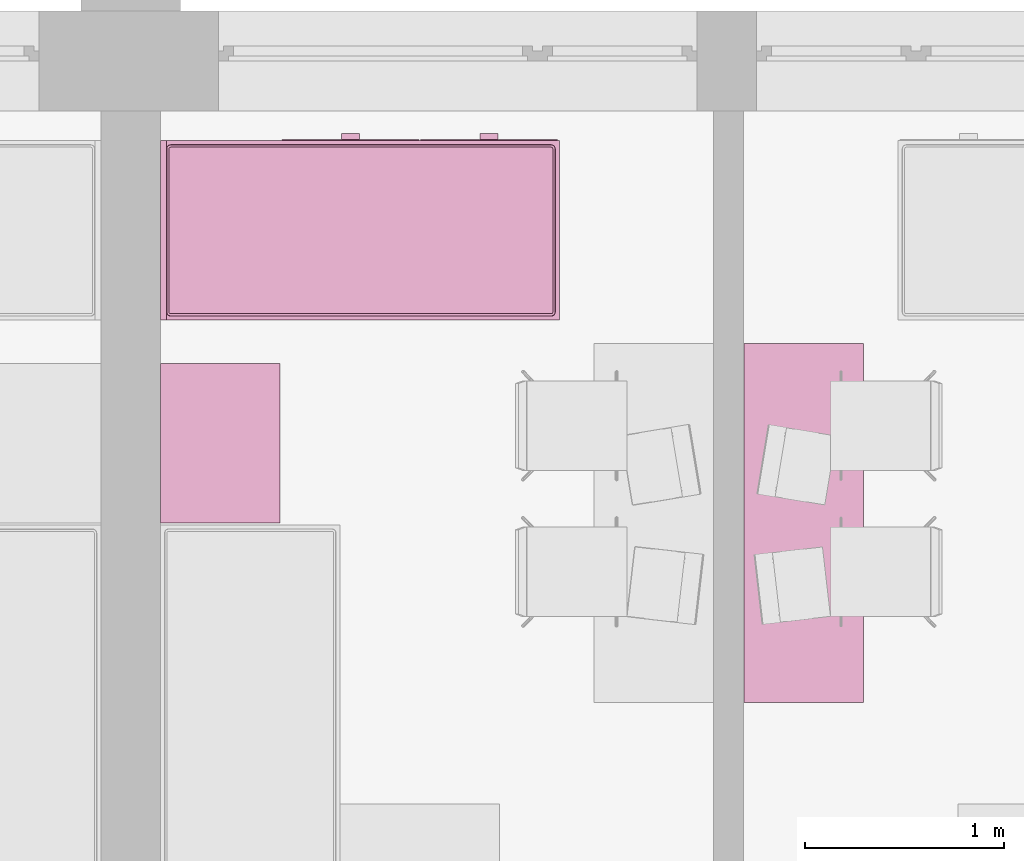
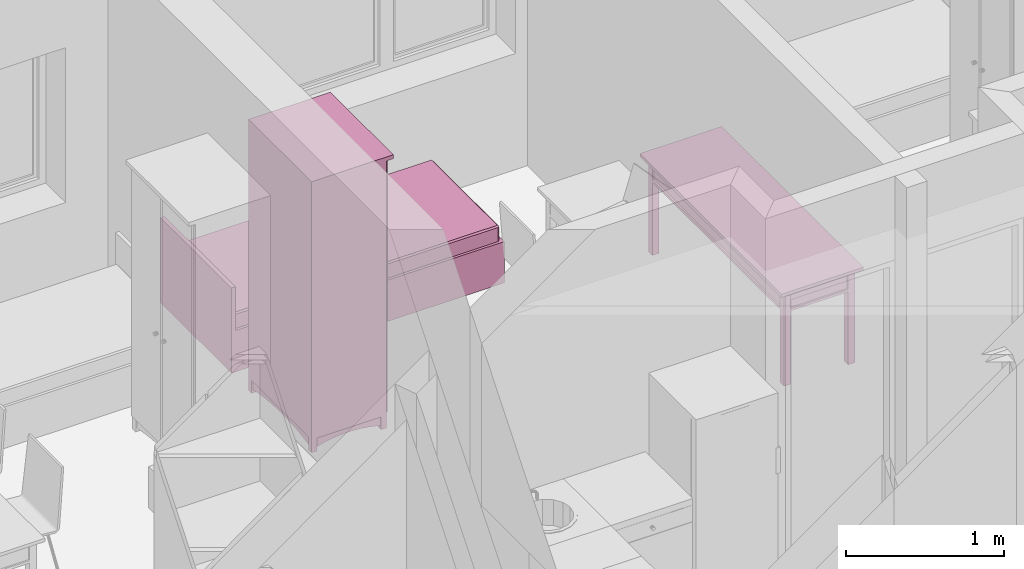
# One storey, part 144 of 172: 3 furnishings.
"""IFC2X3 building model written with IfcOpenShell, lengths in millimetres."""

from ifc_helpers import new_model, entity, si_unit, converted_unit, money_unit, direction, frame, origin_with_axes, place, context, subcontext, project, spatial, faceted_brep, source, transform, mapped, material, material_list, type_object, element, save


model = new_model("IFC2X3")

# Units and contexts
model_context = context("Model", 3, precision=1e-05, world=origin_with_axes(), true_north=direction((0.0, 1.0)))
body_context = subcontext(model_context, "Body", "Model", "MODEL_VIEW")
ifc_project = project(units=[si_unit("LENGTHUNIT", "METRE", prefix="MILLI"), si_unit("AREAUNIT", "SQUARE_METRE"), si_unit("VOLUMEUNIT", "CUBIC_METRE"), converted_unit("PLANEANGLEUNIT", "DEGREE", entity("IfcPlaneAngleMeasure", 0.0174532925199), si_unit("PLANEANGLEUNIT", "RADIAN"), dimensions=[0, 0, 0, 0, 0, 0, 0]), si_unit("SOLIDANGLEUNIT", "STERADIAN"), money_unit("USD"), converted_unit("TIMEUNIT", "Year", entity("IfcTimeMeasure", 31556926.0), si_unit("TIMEUNIT", "SECOND"), dimensions=[0, 0, 0, 0, 0, 0, 0]), si_unit("MASSUNIT", "GRAM"), si_unit("THERMODYNAMICTEMPERATUREUNIT", "DEGREE_CELSIUS"), si_unit("LUMINOUSINTENSITYUNIT", "LUMEN")], contexts=[model_context])

# Site, building, storey
site_placement = place(None, origin_with_axes())
site = spatial("IfcSite", under=ifc_project, at=site_placement, Name="Site", CompositionType="ELEMENT")
building_placement = place(site_placement, origin_with_axes())
building = spatial("IfcBuilding", under=site, at=building_placement, Name="Building", CompositionType="ELEMENT")
storey_placement = place(building_placement, frame((0.0, 0.0, 3200.0), z_axis=(0.0, 0.0, 1.0), x_axis=(1.0, 0.0, 0.0)))
storey = spatial("IfcBuildingStorey", under=building, at=storey_placement, Name="3KORRUS", CompositionType="ELEMENT", Elevation=3200.0)

# Furnishings
ifc_material = material(Name="Background")
ifc_material_list = material_list([ifc_material])
furnishing_element_type_1 = type_object("IfcFurnishingElementType", Name="Bed 19")
shared_shape_1 = source(origin_with_axes(), body_context, "Body", "Brep", [
    faceted_brep([(900.0, 1970.0, 0.0), (0.0, 1970.0, 0.0), (0.0, 2000.0, 0.0), (900.0, 2000.0, 0.0), (900.0, 1970.0, 660.0), (0.0, 1970.0, 660.0), (0.0, 2000.0, 660.0), (900.0, 2000.0, 660.0)], [[[0, 1, 2, 3]], [[1, 0, 4, 5]], [[2, 1, 5, 6]], [[3, 2, 6, 7]], [[0, 3, 7, 4]], [[5, 4, 7, 6]]]),
    faceted_brep([(900.0, 0.0, 0.0), (0.0, 0.0, 0.0), (0.0, 1970.0, 0.0), (900.0, 1970.0, 0.0), (900.0, 0.0, 320.0), (0.0, 0.0, 320.0), (0.0, 1970.0, 320.0), (900.0, 1970.0, 320.0)], [[[0, 1, 2, 3]], [[1, 0, 4, 5]], [[2, 1, 5, 6]], [[3, 2, 6, 7]], [[0, 3, 7, 4]], [[5, 4, 7, 6]]]),
    faceted_brep([(905.0, 10.0, 30.0), (900.0, 10.0, 30.0), (900.0, 695.0, 30.0), (905.0, 695.0, 30.0), (905.0, 10.0, 290.0), (900.0, 10.0, 290.0), (900.0, 695.0, 290.0), (905.0, 695.0, 290.0)], [[[0, 1, 2, 3]], [[1, 0, 4, 5]], [[2, 1, 5, 6]], [[3, 2, 6, 7]], [[0, 3, 7, 4]], [[5, 4, 7, 6]]]),
    faceted_brep([(935.0, 307.5, 150.0), (905.0, 307.5, 150.0), (905.0, 397.5, 150.0), (935.0, 397.5, 150.0), (935.0, 307.5, 170.0), (905.0, 307.5, 170.0), (905.0, 397.5, 170.0), (935.0, 397.5, 170.0)], [[[0, 1, 2, 3]], [[1, 0, 4, 5]], [[2, 1, 5, 6]], [[3, 2, 6, 7]], [[0, 3, 7, 4]], [[5, 4, 7, 6]]]),
    faceted_brep([(905.0, 705.0, 30.0), (900.0, 705.0, 30.0), (900.0, 1390.0, 30.0), (905.0, 1390.0, 30.0), (905.0, 705.0, 290.0), (900.0, 705.0, 290.0), (900.0, 1390.0, 290.0), (905.0, 1390.0, 290.0)], [[[0, 1, 2, 3]], [[1, 0, 4, 5]], [[2, 1, 5, 6]], [[3, 2, 6, 7]], [[0, 3, 7, 4]], [[5, 4, 7, 6]]]),
    faceted_brep([(935.0, 1002.5, 150.0), (905.0, 1002.5, 150.0), (905.0, 1092.5, 150.0), (935.0, 1092.5, 150.0), (935.0, 1002.5, 170.0), (905.0, 1002.5, 170.0), (905.0, 1092.5, 170.0), (935.0, 1092.5, 170.0)], [[[0, 1, 2, 3]], [[1, 0, 4, 5]], [[2, 1, 5, 6]], [[3, 2, 6, 7]], [[0, 3, 7, 4]], [[5, 4, 7, 6]]]),
    faceted_brep([(20.0, 40.0, 350.0), (20.0, 1950.0, 350.0), (21.522, 1957.654, 350.0), (25.858, 1964.142, 350.0), (32.346, 1968.478, 350.0), (40.0, 1970.0, 350.0), (860.0, 1970.0, 350.0), (867.654, 1968.478, 350.0), (874.142, 1964.142, 350.0), (878.478, 1957.654, 350.0), (880.0, 1950.0, 350.0), (880.0, 40.0, 350.0), (878.478, 32.346, 350.0), (874.142, 25.858, 350.0), (867.654, 21.522, 350.0), (860.0, 20.0, 350.0), (40.0, 20.0, 350.0), (32.346, 21.522, 350.0), (25.858, 25.858, 350.0), (21.522, 32.346, 350.0), (20.0, 40.0, 420.0), (20.0, 1950.0, 420.0), (21.522, 1957.654, 420.0), (25.858, 1964.142, 420.0), (32.346, 1968.478, 420.0), (40.0, 1970.0, 420.0), (860.0, 1970.0, 420.0), (867.654, 1968.478, 420.0), (874.142, 1964.142, 420.0), (878.478, 1957.654, 420.0), (880.0, 1950.0, 420.0), (880.0, 40.0, 420.0), (878.478, 32.346, 420.0), (874.142, 25.858, 420.0), (867.654, 21.522, 420.0), (860.0, 20.0, 420.0), (40.0, 20.0, 420.0), (32.346, 21.522, 420.0), (25.858, 25.858, 420.0), (21.522, 32.346, 420.0), (21.522, 40.15, 427.654), (21.522, 1949.85, 427.654), (22.956, 1957.06, 427.654), (26.955, 1963.045, 427.654), (32.94, 1967.044, 427.654), (40.15, 1968.478, 427.654), (859.85, 1968.478, 427.654), (867.06, 1967.044, 427.654), (873.045, 1963.045, 427.654), (877.044, 1957.06, 427.654), (878.478, 1949.85, 427.654), (878.478, 40.15, 427.654), (877.044, 32.94, 427.654), (873.045, 26.955, 427.654), (867.06, 22.956, 427.654), (859.85, 21.522, 427.654), (40.15, 21.522, 427.654), (32.94, 22.956, 427.654), (26.955, 26.955, 427.654), (22.956, 32.94, 427.654), (32.346, 41.216, 438.478), (32.346, 1948.784, 438.478), (33.152, 1952.836, 438.478), (34.759, 1955.241, 438.478), (37.164, 1956.848, 438.478), (41.216, 1957.654, 438.478), (858.784, 1957.654, 438.478), (862.836, 1956.848, 438.478), (865.241, 1955.241, 438.478), (866.848, 1952.836, 438.478), (867.654, 1948.784, 438.478), (867.654, 41.216, 438.478), (866.848, 37.164, 438.478), (865.241, 34.759, 438.478), (862.836, 33.152, 438.478), (858.784, 32.346, 438.478), (41.216, 32.346, 438.478), (37.164, 33.152, 438.478), (34.759, 34.759, 438.478), (33.152, 37.164, 438.478), (40.0, 41.97, 440.0), (40.0, 1948.03, 440.0), (40.327, 1949.673, 440.0), (40.0, 1950.0, 439.924), (41.97, 1950.0, 440.0), (858.03, 1950.0, 440.0), (859.673, 1949.673, 440.0), (860.0, 1950.0, 439.924), (860.0, 1948.03, 440.0), (860.0, 41.97, 440.0), (859.673, 40.327, 440.0), (860.0, 40.0, 439.924), (858.03, 40.0, 440.0), (41.97, 40.0, 440.0), (40.327, 40.327, 440.0), (40.0, 40.0, 439.924)], [[[0, 1, 2, 3, 4, 5, 6, 7, 8, 9, 10, 11, 12, 13, 14, 15, 16, 17, 18, 19]], [[1, 0, 20, 21]], [[2, 1, 21, 22]], [[3, 2, 22, 23]], [[4, 3, 23, 24]], [[5, 4, 24, 25]], [[6, 5, 25, 26]], [[7, 6, 26, 27]], [[8, 7, 27, 28]], [[9, 8, 28, 29]], [[10, 9, 29, 30]], [[11, 10, 30, 31]], [[12, 11, 31, 32]], [[13, 12, 32, 33]], [[14, 13, 33, 34]], [[15, 14, 34, 35]], [[16, 15, 35, 36]], [[17, 16, 36, 37]], [[18, 17, 37, 38]], [[19, 18, 38, 39]], [[0, 19, 39, 20]], [[21, 20, 40, 41]], [[22, 21, 41, 42]], [[23, 22, 42, 43]], [[24, 23, 43, 44]], [[25, 24, 44, 45]], [[26, 25, 45, 46]], [[27, 26, 46, 47]], [[28, 27, 47, 48]], [[29, 28, 48, 49]], [[30, 29, 49, 50]], [[31, 30, 50, 51]], [[32, 31, 51, 52]], [[33, 32, 52, 53]], [[34, 33, 53, 54]], [[35, 34, 54, 55]], [[36, 35, 55, 56]], [[37, 36, 56, 57]], [[38, 37, 57, 58]], [[39, 38, 58, 59]], [[20, 39, 59, 40]], [[41, 40, 60, 61]], [[42, 41, 61, 62]], [[43, 42, 62, 63]], [[44, 43, 63, 64]], [[45, 44, 64, 65]], [[46, 45, 65, 66]], [[47, 46, 66, 67]], [[48, 47, 67, 68]], [[49, 48, 68, 69]], [[50, 49, 69, 70]], [[51, 50, 70, 71]], [[52, 51, 71, 72]], [[53, 52, 72, 73]], [[54, 53, 73, 74]], [[55, 54, 74, 75]], [[56, 55, 75, 76]], [[57, 56, 76, 77]], [[58, 57, 77, 78]], [[59, 58, 78, 79]], [[40, 59, 79, 60]], [[61, 60, 80, 81]], [[62, 61, 81, 82, 83]], [[63, 62, 83]], [[64, 63, 83]], [[65, 64, 83, 82, 84]], [[66, 65, 84, 85]], [[67, 66, 85, 86, 87]], [[68, 67, 87]], [[69, 68, 87]], [[70, 69, 87, 86, 88]], [[71, 70, 88, 89]], [[72, 71, 89, 90, 91]], [[73, 72, 91]], [[74, 73, 91]], [[75, 74, 91, 90, 92]], [[76, 75, 92, 93]], [[77, 76, 93, 94, 95]], [[78, 77, 95]], [[79, 78, 95]], [[60, 79, 95, 94, 80]], [[81, 80, 94, 93, 92, 90, 89, 88, 86, 85, 84, 82]]]),
    faceted_brep([(20.0, 40.0, 350.0), (21.522, 32.346, 350.0), (25.858, 25.858, 350.0), (32.346, 21.522, 350.0), (40.0, 20.0, 350.0), (860.0, 20.0, 350.0), (867.654, 21.522, 350.0), (874.142, 25.858, 350.0), (878.478, 32.346, 350.0), (880.0, 40.0, 350.0), (880.0, 1950.0, 350.0), (878.478, 1957.654, 350.0), (874.142, 1964.142, 350.0), (867.654, 1968.478, 350.0), (860.0, 1970.0, 350.0), (40.0, 1970.0, 350.0), (32.346, 1968.478, 350.0), (25.858, 1964.142, 350.0), (21.522, 1957.654, 350.0), (20.0, 1950.0, 350.0), (20.0, 40.0, 320.0), (21.522, 32.346, 320.0), (25.858, 25.858, 320.0), (32.346, 21.522, 320.0), (40.0, 20.0, 320.0), (860.0, 20.0, 320.0), (867.654, 21.522, 320.0), (874.142, 25.858, 320.0), (878.478, 32.346, 320.0), (880.0, 40.0, 320.0), (880.0, 1950.0, 320.0), (878.478, 1957.654, 320.0), (874.142, 1964.142, 320.0), (867.654, 1968.478, 320.0), (860.0, 1970.0, 320.0), (40.0, 1970.0, 320.0), (32.346, 1968.478, 320.0), (25.858, 1964.142, 320.0), (21.522, 1957.654, 320.0), (20.0, 1950.0, 320.0)], [[[0, 1, 2, 3, 4, 5, 6, 7, 8, 9, 10, 11, 12, 13, 14, 15, 16, 17, 18, 19]], [[0, 20, 21, 1]], [[1, 21, 22, 2]], [[2, 22, 23, 3]], [[3, 23, 24, 4]], [[4, 24, 25, 5]], [[5, 25, 26, 6]], [[6, 26, 27, 7]], [[7, 27, 28, 8]], [[8, 28, 29, 9]], [[9, 29, 30, 10]], [[10, 30, 31, 11]], [[11, 31, 32, 12]], [[12, 32, 33, 13]], [[13, 33, 34, 14]], [[14, 34, 35, 15]], [[15, 35, 36, 16]], [[16, 36, 37, 17]], [[17, 37, 38, 18]], [[18, 38, 39, 19]], [[19, 39, 20, 0]], [[20, 39, 38, 37, 36, 35, 34, 33, 32, 31, 30, 29, 28, 27, 26, 25, 24, 23, 22, 21]]]),
])
furnishing_1_placement = place(storey_placement, frame((8009.70329669, -6189.6041088, 0.0), z_axis=(0.0, 0.0, 1.0), x_axis=(0.0, 1.0, 0.0)))
element("IfcFurnishingElement", 1, at=furnishing_1_placement, inside=storey, type_object=furnishing_element_type_1, material=ifc_material_list, Name="FU - 013", context=body_context, shape_type="MappedRepresentation", body=[
    mapped(shared_shape_1, transform((0.0, 0.0, 0.0))),
])
furnishing_element_type_2 = type_object("IfcFurnishingElementType", Name="Cupboard 19")
shared_shape_2 = source(origin_with_axes(), body_context, "Body", "Brep", [
    faceted_brep([(780.0, 600.0, 120.0), (780.0, 600.0, 2050.0), (780.0, 580.0, 2050.0), (780.0, 580.0, 120.0), (20.0, 600.0, 120.0), (20.0, 600.0, 2050.0), (20.0, 580.0, 2050.0), (20.0, 580.0, 120.0)], [[[0, 1, 2, 3]], [[4, 5, 1, 0]], [[1, 5, 6, 2]], [[3, 2, 6, 7]], [[0, 3, 7, 4]], [[7, 6, 5, 4]]]),
    faceted_brep([(0.0, 50.0, 100.0), (0.0, 600.0, 100.0), (20.0, 600.0, 100.0), (20.0, 50.0, 100.0), (0.0, 50.0, 2070.0), (0.0, 600.0, 2070.0), (20.0, 600.0, 2070.0), (20.0, 50.0, 2070.0)], [[[0, 1, 2, 3]], [[0, 4, 5, 1]], [[1, 5, 6, 2]], [[2, 6, 7, 3]], [[3, 7, 4, 0]], [[7, 6, 5, 4]]]),
    faceted_brep([(780.0, 50.0, 100.0), (780.0, 600.0, 100.0), (800.0, 600.0, 100.0), (800.0, 50.0, 100.0), (780.0, 50.0, 2070.0), (780.0, 600.0, 2070.0), (800.0, 600.0, 2070.0), (800.0, 50.0, 2070.0)], [[[0, 1, 2, 3]], [[0, 4, 5, 1]], [[1, 5, 6, 2]], [[2, 6, 7, 3]], [[3, 7, 4, 0]], [[7, 6, 5, 4]]]),
    faceted_brep([(20.0, 50.0, 100.0), (20.0, 600.0, 100.0), (780.0, 600.0, 100.0), (780.0, 50.0, 100.0), (20.0, 50.0, 120.0), (20.0, 600.0, 120.0), (780.0, 600.0, 120.0), (780.0, 50.0, 120.0)], [[[0, 1, 2, 3]], [[0, 4, 5, 1]], [[1, 5, 6, 2]], [[2, 6, 7, 3]], [[3, 7, 4, 0]], [[7, 6, 5, 4]]]),
    faceted_brep([(20.0, 50.0, 2050.0), (20.0, 600.0, 2050.0), (780.0, 600.0, 2050.0), (780.0, 50.0, 2050.0), (20.0, 50.0, 2070.0), (20.0, 600.0, 2070.0), (780.0, 600.0, 2070.0), (780.0, 50.0, 2070.0)], [[[0, 1, 2, 3]], [[0, 4, 5, 1]], [[1, 5, 6, 2]], [[2, 6, 7, 3]], [[3, 7, 4, 0]], [[7, 6, 5, 4]]]),
    faceted_brep([(0.0, 600.0, 2070.0), (0.0, 0.0, 2070.0), (0.0, 0.0, 2100.0), (0.0, 600.0, 2100.0), (800.0, 600.0, 2070.0), (800.0, 0.0, 2070.0), (800.0, 0.0, 2100.0), (800.0, 600.0, 2100.0)], [[[0, 1, 2, 3]], [[0, 4, 5, 1]], [[1, 5, 6, 2]], [[3, 2, 6, 7]], [[4, 0, 3, 7]], [[5, 4, 7, 6]]]),
    faceted_brep([(760.0, 590.0, 25.0), (760.0, 570.0, 25.0), (640.962, 570.0, 45.8), (640.962, 590.0, 45.8), (760.0, 590.0, 100.0), (760.0, 570.0, 100.0), (40.0, 570.0, 100.0), (40.0, 570.0, 25.0), (159.038, 570.0, 45.8), (279.23, 570.0, 58.32), (400.0, 570.0, 62.5), (520.77, 570.0, 58.32), (520.77, 590.0, 58.32), (400.0, 590.0, 62.5), (279.23, 590.0, 58.32), (159.038, 590.0, 45.8), (40.0, 590.0, 25.0), (40.0, 590.0, 100.0)], [[[0, 1, 2, 3]], [[4, 5, 1, 0]], [[1, 5, 6, 7, 8, 9, 10, 11, 2]], [[3, 2, 11, 12]], [[0, 3, 12, 13, 14, 15, 16, 17, 4]], [[17, 6, 5, 4]], [[16, 7, 6, 17]], [[15, 8, 7, 16]], [[14, 9, 8, 15]], [[13, 10, 9, 14]], [[12, 11, 10, 13]]]),
    faceted_brep([(760.0, 80.0, 25.0), (760.0, 60.0, 25.0), (640.962, 60.0, 45.8), (640.962, 80.0, 45.8), (760.0, 80.0, 100.0), (760.0, 60.0, 100.0), (40.0, 60.0, 100.0), (40.0, 60.0, 25.0), (159.038, 60.0, 45.8), (279.23, 60.0, 58.32), (400.0, 60.0, 62.5), (520.77, 60.0, 58.32), (520.77, 80.0, 58.32), (400.0, 80.0, 62.5), (279.23, 80.0, 58.32), (159.038, 80.0, 45.8), (40.0, 80.0, 25.0), (40.0, 80.0, 100.0)], [[[0, 1, 2, 3]], [[4, 5, 1, 0]], [[1, 5, 6, 7, 8, 9, 10, 11, 2]], [[3, 2, 11, 12]], [[0, 3, 12, 13, 14, 15, 16, 17, 4]], [[17, 6, 5, 4]], [[16, 7, 6, 17]], [[15, 8, 7, 16]], [[14, 9, 8, 15]], [[13, 10, 9, 14]], [[12, 11, 10, 13]]]),
    faceted_brep([(790.0, 90.0, 25.0), (770.0, 90.0, 25.0), (770.0, 141.266, 38.072), (790.0, 141.266, 38.072), (790.0, 90.0, 100.0), (770.0, 90.0, 100.0), (770.0, 560.0, 100.0), (770.0, 560.0, 25.0), (770.0, 508.734, 38.072), (770.0, 456.752, 47.92), (770.0, 404.257, 54.508), (770.0, 351.453, 57.808), (770.0, 298.547, 57.808), (770.0, 245.743, 54.508), (770.0, 193.248, 47.92), (790.0, 193.248, 47.92), (790.0, 245.743, 54.508), (790.0, 298.547, 57.808), (790.0, 351.453, 57.808), (790.0, 404.257, 54.508), (790.0, 456.752, 47.92), (790.0, 508.734, 38.072), (790.0, 560.0, 25.0), (790.0, 560.0, 100.0)], [[[0, 1, 2, 3]], [[4, 5, 1, 0]], [[1, 5, 6, 7, 8, 9, 10, 11, 12, 13, 14, 2]], [[3, 2, 14, 15]], [[0, 3, 15, 16, 17, 18, 19, 20, 21, 22, 23, 4]], [[23, 6, 5, 4]], [[22, 7, 6, 23]], [[21, 8, 7, 22]], [[20, 9, 8, 21]], [[19, 10, 9, 20]], [[18, 11, 10, 19]], [[17, 12, 11, 18]], [[16, 13, 12, 17]], [[15, 14, 13, 16]]]),
    faceted_brep([(30.0, 90.0, 25.0), (10.0, 90.0, 25.0), (10.0, 141.266, 38.072), (30.0, 141.266, 38.072), (30.0, 90.0, 100.0), (10.0, 90.0, 100.0), (10.0, 560.0, 100.0), (10.0, 560.0, 25.0), (10.0, 508.734, 38.072), (10.0, 456.752, 47.92), (10.0, 404.257, 54.508), (10.0, 351.453, 57.808), (10.0, 298.547, 57.808), (10.0, 245.743, 54.508), (10.0, 193.248, 47.92), (30.0, 193.248, 47.92), (30.0, 245.743, 54.508), (30.0, 298.547, 57.808), (30.0, 351.453, 57.808), (30.0, 404.257, 54.508), (30.0, 456.752, 47.92), (30.0, 508.734, 38.072), (30.0, 560.0, 25.0), (30.0, 560.0, 100.0)], [[[0, 1, 2, 3]], [[4, 5, 1, 0]], [[1, 5, 6, 7, 8, 9, 10, 11, 12, 13, 14, 2]], [[3, 2, 14, 15]], [[0, 3, 15, 16, 17, 18, 19, 20, 21, 22, 23, 4]], [[23, 6, 5, 4]], [[22, 7, 6, 23]], [[21, 8, 7, 22]], [[20, 9, 8, 21]], [[19, 10, 9, 20]], [[18, 11, 10, 19]], [[17, 12, 11, 18]], [[16, 13, 12, 17]], [[15, 14, 13, 16]]]),
    faceted_brep([(760.0, 560.0, 0.0), (760.0, 560.0, 100.0), (760.0, 600.0, 100.0), (760.0, 600.0, 0.0), (800.0, 560.0, 0.0), (800.0, 560.0, 100.0), (800.0, 600.0, 100.0), (800.0, 600.0, 0.0)], [[[0, 1, 2, 3]], [[4, 5, 1, 0]], [[1, 5, 6, 2]], [[3, 2, 6, 7]], [[0, 3, 7, 4]], [[7, 6, 5, 4]]]),
    faceted_brep([(0.0, 560.0, 0.0), (0.0, 560.0, 100.0), (0.0, 600.0, 100.0), (0.0, 600.0, 0.0), (40.0, 560.0, 0.0), (40.0, 560.0, 100.0), (40.0, 600.0, 100.0), (40.0, 600.0, 0.0)], [[[0, 1, 2, 3]], [[4, 5, 1, 0]], [[1, 5, 6, 2]], [[3, 2, 6, 7]], [[0, 3, 7, 4]], [[7, 6, 5, 4]]]),
    faceted_brep([(760.0, 50.0, 0.0), (760.0, 50.0, 100.0), (760.0, 90.0, 100.0), (760.0, 90.0, 0.0), (800.0, 50.0, 0.0), (800.0, 50.0, 100.0), (800.0, 90.0, 100.0), (800.0, 90.0, 0.0)], [[[0, 1, 2, 3]], [[4, 5, 1, 0]], [[1, 5, 6, 2]], [[3, 2, 6, 7]], [[0, 3, 7, 4]], [[7, 6, 5, 4]]]),
    faceted_brep([(0.0, 50.0, 0.0), (0.0, 50.0, 100.0), (0.0, 90.0, 100.0), (0.0, 90.0, 0.0), (40.0, 50.0, 0.0), (40.0, 50.0, 100.0), (40.0, 90.0, 100.0), (40.0, 90.0, 0.0)], [[[0, 1, 2, 3]], [[4, 5, 1, 0]], [[1, 5, 6, 2]], [[3, 2, 6, 7]], [[0, 3, 7, 4]], [[7, 6, 5, 4]]]),
    faceted_brep([(780.0, 580.0, 587.5), (780.0, 580.0, 607.5), (780.0, 50.0, 607.5), (780.0, 50.0, 587.5), (20.0, 580.0, 587.5), (20.0, 580.0, 607.5), (20.0, 50.0, 607.5), (20.0, 50.0, 587.5)], [[[0, 1, 2, 3]], [[4, 5, 1, 0]], [[1, 5, 6, 2]], [[3, 2, 6, 7]], [[0, 3, 7, 4]], [[7, 6, 5, 4]]]),
    faceted_brep([(780.0, 580.0, 1075.0), (780.0, 580.0, 1095.0), (780.0, 50.0, 1095.0), (780.0, 50.0, 1075.0), (20.0, 580.0, 1075.0), (20.0, 580.0, 1095.0), (20.0, 50.0, 1095.0), (20.0, 50.0, 1075.0)], [[[0, 1, 2, 3]], [[4, 5, 1, 0]], [[1, 5, 6, 2]], [[3, 2, 6, 7]], [[0, 3, 7, 4]], [[7, 6, 5, 4]]]),
    faceted_brep([(780.0, 580.0, 1562.5), (780.0, 580.0, 1582.5), (780.0, 50.0, 1582.5), (780.0, 50.0, 1562.5), (20.0, 580.0, 1562.5), (20.0, 580.0, 1582.5), (20.0, 50.0, 1582.5), (20.0, 50.0, 1562.5)], [[[0, 1, 2, 3]], [[4, 5, 1, 0]], [[1, 5, 6, 2]], [[3, 2, 6, 7]], [[0, 3, 7, 4]], [[7, 6, 5, 4]]]),
    faceted_brep([(789.5, 50.0, 110.5), (400.5, 50.0, 110.5), (400.5, 50.0, 2059.5), (789.5, 50.0, 2059.5), (789.5, 40.0, 110.5), (400.5, 40.0, 110.5), (400.5, 40.0, 2059.5), (789.5, 40.0, 2059.5), (779.5, 30.0, 120.5), (410.5, 30.0, 120.5), (410.5, 30.0, 2049.5), (779.5, 30.0, 2049.5)], [[[0, 1, 2, 3]], [[0, 4, 5, 1]], [[1, 5, 6, 2]], [[2, 6, 7, 3]], [[3, 7, 4, 0]], [[4, 8, 9, 5]], [[5, 9, 10, 6]], [[6, 10, 11, 7]], [[7, 11, 8, 4]], [[10, 9, 8, 11]]]),
    faceted_brep([(399.5, 50.0, 110.5), (10.5, 50.0, 110.5), (10.5, 50.0, 2059.5), (399.5, 50.0, 2059.5), (399.5, 40.0, 110.5), (10.5, 40.0, 110.5), (10.5, 40.0, 2059.5), (399.5, 40.0, 2059.5), (389.5, 30.0, 120.5), (20.5, 30.0, 120.5), (20.5, 30.0, 2049.5), (389.5, 30.0, 2049.5)], [[[0, 1, 2, 3]], [[0, 4, 5, 1]], [[1, 5, 6, 2]], [[2, 6, 7, 3]], [[3, 7, 4, 0]], [[4, 8, 9, 5]], [[5, 9, 10, 6]], [[6, 10, 11, 7]], [[7, 11, 8, 4]], [[10, 9, 8, 11]]]),
    faceted_brep([(339.608, 30.0, 954.0), (338.0, 30.0, 960.0), (339.608, 30.0, 966.0), (344.0, 30.0, 970.392), (350.0, 30.0, 972.0), (356.0, 30.0, 970.392), (360.392, 30.0, 966.0), (362.0, 30.0, 960.0), (360.392, 30.0, 954.0), (356.0, 30.0, 949.608), (350.0, 30.0, 948.0), (344.0, 30.0, 949.608), (339.608, 5.0, 954.0), (338.0, 5.0, 960.0), (339.608, 5.0, 966.0), (344.0, 5.0, 970.392), (350.0, 5.0, 972.0), (356.0, 5.0, 970.392), (360.392, 5.0, 966.0), (362.0, 5.0, 960.0), (360.392, 5.0, 954.0), (356.0, 5.0, 949.608), (350.0, 5.0, 948.0), (344.0, 5.0, 949.608)], [[[0, 1, 2, 3, 4, 5, 6, 7, 8, 9, 10, 11]], [[0, 12, 13, 1]], [[1, 13, 14, 2]], [[2, 14, 15, 3]], [[3, 15, 16, 4]], [[4, 16, 17, 5]], [[5, 17, 18, 6]], [[6, 18, 19, 7]], [[7, 19, 20, 8]], [[8, 20, 21, 9]], [[9, 21, 22, 10]], [[10, 22, 23, 11]], [[11, 23, 12, 0]], [[12, 23, 22, 21, 20, 19, 18, 17, 16, 15, 14, 13]]]),
    faceted_brep([(460.392, 30.0, 954.0), (456.0, 30.0, 949.608), (450.0, 30.0, 948.0), (444.0, 30.0, 949.608), (439.608, 30.0, 954.0), (438.0, 30.0, 960.0), (439.608, 30.0, 966.0), (444.0, 30.0, 970.392), (450.0, 30.0, 972.0), (456.0, 30.0, 970.392), (460.392, 30.0, 966.0), (462.0, 30.0, 960.0), (460.392, 5.0, 954.0), (456.0, 5.0, 949.608), (450.0, 5.0, 948.0), (444.0, 5.0, 949.608), (439.608, 5.0, 954.0), (438.0, 5.0, 960.0), (439.608, 5.0, 966.0), (444.0, 5.0, 970.392), (450.0, 5.0, 972.0), (456.0, 5.0, 970.392), (460.392, 5.0, 966.0), (462.0, 5.0, 960.0)], [[[0, 1, 2, 3, 4, 5, 6, 7, 8, 9, 10, 11]], [[1, 0, 12, 13]], [[2, 1, 13, 14]], [[3, 2, 14, 15]], [[4, 3, 15, 16]], [[5, 4, 16, 17]], [[6, 5, 17, 18]], [[7, 6, 18, 19]], [[8, 7, 19, 20]], [[9, 8, 20, 21]], [[10, 9, 21, 22]], [[11, 10, 22, 23]], [[0, 11, 23, 12]], [[12, 23, 22, 21, 20, 19, 18, 17, 16, 15, 14, 13]]]),
])
furnishing_2_placement = place(storey_placement, frame((6609.70329669, -7206.41563755, 0.0), z_axis=(0.0, 0.0, 1.0), x_axis=(0.0, 1.0, 0.0)))
element("IfcFurnishingElement", 2, at=furnishing_2_placement, inside=storey, type_object=furnishing_element_type_2, material=ifc_material_list, Name="FU - 014", context=body_context, shape_type="MappedRepresentation", body=[
    mapped(shared_shape_2, transform((0.0, 0.0, 0.0))),
])
furnishing_element_type_3 = type_object("IfcFurnishingElementType", Name="Rectangular Table 01 19")
shared_shape_3 = source(origin_with_axes(), body_context, "Body", "Brep", [
    faceted_brep([(-90.0, 40.0, 0.0), (-90.0, 90.0, 0.0), (-40.0, 90.0, 0.0), (-40.0, 40.0, 0.0), (-90.0, 40.0, 725.0), (-90.0, 90.0, 725.0), (-40.0, 90.0, 725.0), (-40.0, 40.0, 725.0)], [[[0, 1, 2, 3]], [[0, 4, 5, 1]], [[1, 5, 6, 2]], [[2, 6, 7, 3]], [[3, 7, 4, 0]], [[7, 6, 5, 4]]]),
    faceted_brep([(-1760.0, 40.0, 0.0), (-1760.0, 90.0, 0.0), (-1710.0, 90.0, 0.0), (-1710.0, 40.0, 0.0), (-1760.0, 40.0, 725.0), (-1760.0, 90.0, 725.0), (-1710.0, 90.0, 725.0), (-1710.0, 40.0, 725.0)], [[[0, 1, 2, 3]], [[0, 4, 5, 1]], [[1, 5, 6, 2]], [[2, 6, 7, 3]], [[3, 7, 4, 0]], [[7, 6, 5, 4]]]),
    faceted_brep([(-90.0, 510.0, 0.0), (-90.0, 560.0, 0.0), (-40.0, 560.0, 0.0), (-40.0, 510.0, 0.0), (-90.0, 510.0, 725.0), (-90.0, 560.0, 725.0), (-40.0, 560.0, 725.0), (-40.0, 510.0, 725.0)], [[[0, 1, 2, 3]], [[0, 4, 5, 1]], [[1, 5, 6, 2]], [[2, 6, 7, 3]], [[3, 7, 4, 0]], [[7, 6, 5, 4]]]),
    faceted_brep([(-1760.0, 510.0, 0.0), (-1760.0, 560.0, 0.0), (-1710.0, 560.0, 0.0), (-1710.0, 510.0, 0.0), (-1760.0, 510.0, 725.0), (-1760.0, 560.0, 725.0), (-1710.0, 560.0, 725.0), (-1710.0, 510.0, 725.0)], [[[0, 1, 2, 3]], [[0, 4, 5, 1]], [[1, 5, 6, 2]], [[2, 6, 7, 3]], [[3, 7, 4, 0]], [[7, 6, 5, 4]]]),
    faceted_brep([(-1760.0, 40.0, 565.0), (-1760.0, 560.0, 565.0), (-40.0, 560.0, 565.0), (-40.0, 40.0, 565.0), (-1760.0, 40.0, 585.0), (-1760.0, 560.0, 585.0), (-40.0, 560.0, 585.0), (-40.0, 40.0, 585.0)], [[[0, 1, 2, 3]], [[0, 4, 5, 1]], [[1, 5, 6, 2]], [[2, 6, 7, 3]], [[3, 7, 4, 0]], [[7, 6, 5, 4]]]),
    faceted_brep([(-1710.0, 52.5, 585.0), (-1710.0, 77.5, 585.0), (-90.0, 77.5, 585.0), (-90.0, 52.5, 585.0), (-1710.0, 52.5, 745.0), (-1710.0, 77.5, 745.0), (-90.0, 77.5, 745.0), (-90.0, 52.5, 745.0)], [[[0, 1, 2, 3]], [[0, 4, 5, 1]], [[1, 5, 6, 2]], [[2, 6, 7, 3]], [[3, 7, 4, 0]], [[7, 6, 5, 4]]]),
    faceted_brep([(-77.5, 90.0, 585.0), (-77.5, 510.0, 585.0), (-52.5, 510.0, 585.0), (-52.5, 90.0, 585.0), (-77.5, 90.0, 745.0), (-77.5, 510.0, 745.0), (-52.5, 510.0, 745.0), (-52.5, 90.0, 745.0)], [[[0, 1, 2, 3]], [[0, 4, 5, 1]], [[1, 5, 6, 2]], [[2, 6, 7, 3]], [[3, 7, 4, 0]], [[7, 6, 5, 4]]]),
    faceted_brep([(-90.0, 547.5, 585.0), (-90.0, 522.5, 585.0), (-1710.0, 522.5, 585.0), (-1710.0, 547.5, 585.0), (-90.0, 547.5, 745.0), (-90.0, 522.5, 745.0), (-1710.0, 522.5, 745.0), (-1710.0, 547.5, 745.0)], [[[0, 1, 2, 3]], [[0, 4, 5, 1]], [[1, 5, 6, 2]], [[2, 6, 7, 3]], [[3, 7, 4, 0]], [[7, 6, 5, 4]]]),
    faceted_brep([(-1722.5, 510.0, 585.0), (-1722.5, 90.0, 585.0), (-1747.5, 90.0, 585.0), (-1747.5, 510.0, 585.0), (-1722.5, 510.0, 745.0), (-1722.5, 90.0, 745.0), (-1747.5, 90.0, 745.0), (-1747.5, 510.0, 745.0)], [[[0, 1, 2, 3]], [[0, 4, 5, 1]], [[1, 5, 6, 2]], [[2, 6, 7, 3]], [[3, 7, 4, 0]], [[7, 6, 5, 4]]]),
    faceted_brep([(-897.5, 40.0, 585.0), (-897.5, 60.0, 585.0), (-95.0, 60.0, 585.0), (-95.0, 40.0, 585.0), (-897.5, 40.0, 745.0), (-897.5, 60.0, 745.0), (-95.0, 60.0, 745.0), (-95.0, 40.0, 745.0)], [[[0, 1, 2, 3]], [[0, 4, 5, 1]], [[1, 5, 6, 2]], [[2, 6, 7, 3]], [[3, 7, 4, 0]], [[7, 6, 5, 4]]]),
    faceted_brep([(-1705.0, 40.0, 585.0), (-1705.0, 60.0, 585.0), (-902.5, 60.0, 585.0), (-902.5, 40.0, 585.0), (-1705.0, 40.0, 745.0), (-1705.0, 60.0, 745.0), (-902.5, 60.0, 745.0), (-902.5, 40.0, 745.0)], [[[0, 1, 2, 3]], [[0, 4, 5, 1]], [[1, 5, 6, 2]], [[2, 6, 7, 3]], [[3, 7, 4, 0]], [[7, 6, 5, 4]]]),
    faceted_brep([(-504.91, 40.0, 660.0), (-506.25, 40.0, 665.0), (-504.91, 40.0, 670.0), (-501.25, 40.0, 673.66), (-496.25, 40.0, 675.0), (-491.25, 40.0, 673.66), (-487.59, 40.0, 670.0), (-486.25, 40.0, 665.0), (-487.59, 40.0, 660.0), (-491.25, 40.0, 656.34), (-496.25, 40.0, 655.0), (-501.25, 40.0, 656.34), (-504.91, 25.0, 660.0), (-506.25, 25.0, 665.0), (-504.91, 25.0, 670.0), (-501.25, 25.0, 673.66), (-496.25, 25.0, 675.0), (-491.25, 25.0, 673.66), (-487.59, 25.0, 670.0), (-486.25, 25.0, 665.0), (-487.59, 25.0, 660.0), (-491.25, 25.0, 656.34), (-496.25, 25.0, 655.0), (-501.25, 25.0, 656.34)], [[[0, 1, 2, 3, 4, 5, 6, 7, 8, 9, 10, 11]], [[0, 12, 13, 1]], [[1, 13, 14, 2]], [[2, 14, 15, 3]], [[3, 15, 16, 4]], [[4, 16, 17, 5]], [[5, 17, 18, 6]], [[6, 18, 19, 7]], [[7, 19, 20, 8]], [[8, 20, 21, 9]], [[9, 21, 22, 10]], [[10, 22, 23, 11]], [[11, 23, 12, 0]], [[12, 23, 22, 21, 20, 19, 18, 17, 16, 15, 14, 13]]]),
    faceted_brep([(-506.25, 12.01, 665.0), (-504.91, 12.01, 660.0), (-496.25, 10.0, 665.0), (-513.571, 17.5, 665.0), (-511.25, 17.5, 656.34), (-501.25, 12.01, 656.34), (-504.91, 12.01, 670.0), (-516.25, 25.0, 665.0), (-513.571, 25.0, 655.0), (-504.91, 17.5, 650.0), (-511.25, 17.5, 673.66), (-496.25, 12.01, 655.0), (-501.25, 12.01, 673.66), (-513.571, 25.0, 675.0), (-506.25, 25.0, 682.321), (-496.25, 25.0, 685.0), (-486.25, 25.0, 682.321), (-478.929, 25.0, 675.0), (-476.25, 25.0, 665.0), (-478.929, 25.0, 655.0), (-486.25, 25.0, 647.679), (-496.25, 25.0, 645.0), (-506.25, 25.0, 647.679), (-496.25, 17.5, 647.679), (-504.91, 17.5, 680.0), (-491.25, 12.01, 656.34), (-496.25, 12.01, 675.0), (-496.25, 17.5, 682.321), (-487.59, 17.5, 680.0), (-481.25, 17.5, 673.66), (-478.929, 17.5, 665.0), (-481.25, 17.5, 656.34), (-487.59, 17.5, 650.0), (-487.59, 12.01, 660.0), (-491.25, 12.01, 673.66), (-487.59, 12.01, 670.0), (-486.25, 12.01, 665.0)], [[[0, 1, 2]], [[3, 4, 1, 0]], [[1, 5, 2]], [[6, 0, 2]], [[7, 8, 4, 3]], [[4, 9, 5, 1]], [[10, 3, 0, 6]], [[5, 11, 2]], [[12, 6, 2]], [[8, 7, 13, 14, 15, 16, 17, 18, 19, 20, 21, 22]], [[8, 22, 9, 4]], [[13, 7, 3, 10]], [[9, 23, 11, 5]], [[24, 10, 6, 12]], [[11, 25, 2]], [[26, 12, 2]], [[14, 13, 10, 24]], [[15, 14, 24, 27]], [[16, 15, 27, 28]], [[17, 16, 28, 29]], [[18, 17, 29, 30]], [[19, 18, 30, 31]], [[20, 19, 31, 32]], [[21, 20, 32, 23]], [[22, 21, 23, 9]], [[23, 32, 25, 11]], [[27, 24, 12, 26]], [[25, 33, 2]], [[34, 26, 2]], [[28, 27, 26, 34]], [[29, 28, 34, 35]], [[30, 29, 35, 36]], [[31, 30, 36, 33]], [[32, 31, 33, 25]], [[33, 36, 2]], [[35, 34, 2]], [[36, 35, 2]]]),
    faceted_brep([(-1312.41, 40.0, 660.0), (-1313.75, 40.0, 665.0), (-1312.41, 40.0, 670.0), (-1308.75, 40.0, 673.66), (-1303.75, 40.0, 675.0), (-1298.75, 40.0, 673.66), (-1295.09, 40.0, 670.0), (-1293.75, 40.0, 665.0), (-1295.09, 40.0, 660.0), (-1298.75, 40.0, 656.34), (-1303.75, 40.0, 655.0), (-1308.75, 40.0, 656.34), (-1312.41, 25.0, 660.0), (-1313.75, 25.0, 665.0), (-1312.41, 25.0, 670.0), (-1308.75, 25.0, 673.66), (-1303.75, 25.0, 675.0), (-1298.75, 25.0, 673.66), (-1295.09, 25.0, 670.0), (-1293.75, 25.0, 665.0), (-1295.09, 25.0, 660.0), (-1298.75, 25.0, 656.34), (-1303.75, 25.0, 655.0), (-1308.75, 25.0, 656.34)], [[[0, 1, 2, 3, 4, 5, 6, 7, 8, 9, 10, 11]], [[0, 12, 13, 1]], [[1, 13, 14, 2]], [[2, 14, 15, 3]], [[3, 15, 16, 4]], [[4, 16, 17, 5]], [[5, 17, 18, 6]], [[6, 18, 19, 7]], [[7, 19, 20, 8]], [[8, 20, 21, 9]], [[9, 21, 22, 10]], [[10, 22, 23, 11]], [[11, 23, 12, 0]], [[12, 23, 22, 21, 20, 19, 18, 17, 16, 15, 14, 13]]]),
    faceted_brep([(-1313.75, 12.01, 665.0), (-1312.41, 12.01, 660.0), (-1303.75, 10.0, 665.0), (-1321.071, 17.5, 665.0), (-1318.75, 17.5, 656.34), (-1308.75, 12.01, 656.34), (-1312.41, 12.01, 670.0), (-1323.75, 25.0, 665.0), (-1321.071, 25.0, 655.0), (-1312.41, 17.5, 650.0), (-1318.75, 17.5, 673.66), (-1303.75, 12.01, 655.0), (-1308.75, 12.01, 673.66), (-1321.071, 25.0, 675.0), (-1313.75, 25.0, 682.321), (-1303.75, 25.0, 685.0), (-1293.75, 25.0, 682.321), (-1286.429, 25.0, 675.0), (-1283.75, 25.0, 665.0), (-1286.429, 25.0, 655.0), (-1293.75, 25.0, 647.679), (-1303.75, 25.0, 645.0), (-1313.75, 25.0, 647.679), (-1303.75, 17.5, 647.679), (-1312.41, 17.5, 680.0), (-1298.75, 12.01, 656.34), (-1303.75, 12.01, 675.0), (-1303.75, 17.5, 682.321), (-1295.09, 17.5, 680.0), (-1288.75, 17.5, 673.66), (-1286.429, 17.5, 665.0), (-1288.75, 17.5, 656.34), (-1295.09, 17.5, 650.0), (-1295.09, 12.01, 660.0), (-1298.75, 12.01, 673.66), (-1295.09, 12.01, 670.0), (-1293.75, 12.01, 665.0)], [[[0, 1, 2]], [[3, 4, 1, 0]], [[1, 5, 2]], [[6, 0, 2]], [[7, 8, 4, 3]], [[4, 9, 5, 1]], [[10, 3, 0, 6]], [[5, 11, 2]], [[12, 6, 2]], [[8, 7, 13, 14, 15, 16, 17, 18, 19, 20, 21, 22]], [[8, 22, 9, 4]], [[13, 7, 3, 10]], [[9, 23, 11, 5]], [[24, 10, 6, 12]], [[11, 25, 2]], [[26, 12, 2]], [[14, 13, 10, 24]], [[15, 14, 24, 27]], [[16, 15, 27, 28]], [[17, 16, 28, 29]], [[18, 17, 29, 30]], [[19, 18, 30, 31]], [[20, 19, 31, 32]], [[21, 20, 32, 23]], [[22, 21, 23, 9]], [[23, 32, 25, 11]], [[27, 24, 12, 26]], [[25, 33, 2]], [[34, 26, 2]], [[28, 27, 26, 34]], [[29, 28, 34, 35]], [[30, 29, 35, 36]], [[31, 30, 36, 33]], [[32, 31, 33, 25]], [[33, 36, 2]], [[35, 34, 2]], [[36, 35, 2]]]),
    faceted_brep([(-1800.0, 0.0, 725.0), (-1800.0, 600.0, 725.0), (0.0, 600.0, 725.0), (0.0, 0.0, 725.0), (-1800.0, 0.0, 750.0), (-1800.0, 600.0, 750.0), (0.0, 600.0, 750.0), (0.0, 0.0, 750.0)], [[[0, 1, 2, 3]], [[0, 4, 5, 1]], [[1, 5, 6, 2]], [[2, 6, 7, 3]], [[3, 7, 4, 0]], [[7, 6, 5, 4]]]),
])
furnishing_3_placement = place(storey_placement, frame((9535.15011628, -6307.26955348, 0.0), z_axis=(0.0, 0.0, 1.0), x_axis=(0.0, 1.0, 0.0)))
element("IfcFurnishingElement", 3, at=furnishing_3_placement, inside=storey, type_object=furnishing_element_type_3, material=ifc_material_list, Name="FU - 011", context=body_context, shape_type="MappedRepresentation", body=[
    mapped(shared_shape_3, transform((0.0, 0.0, 0.0))),
])

save(model, "model.ifc")
